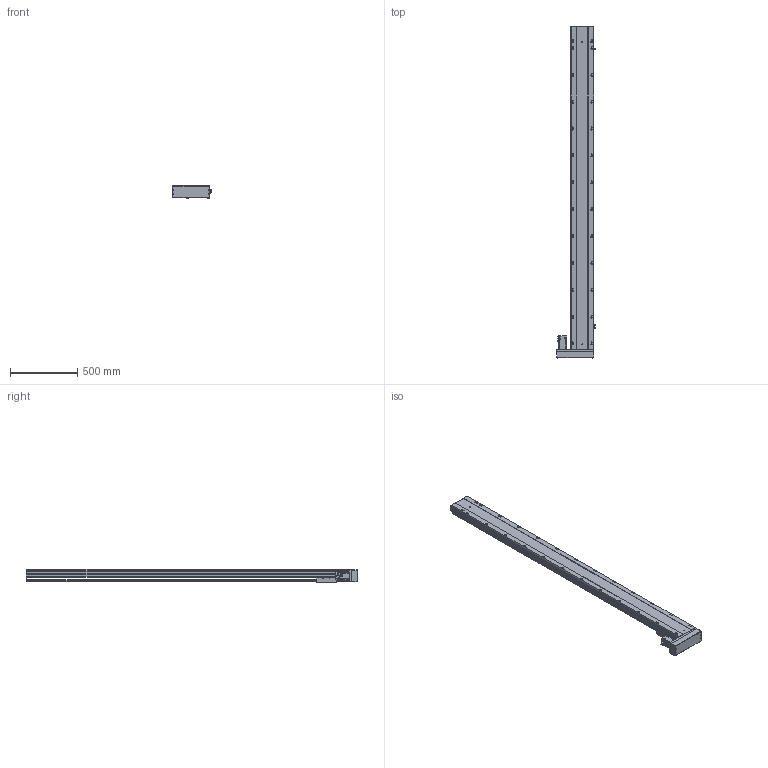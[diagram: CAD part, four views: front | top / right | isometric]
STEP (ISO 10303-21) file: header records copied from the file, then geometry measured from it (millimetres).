
FILE_DESCRIPTION (( 'STEP AP203' ), '1' );
FILE_NAME ('41.STEP', '2021-01-06T00:13:27', ( '' ), ( '' ), 'SwSTEP 2.0', 'SolidWorks 2016', '' );
FILE_SCHEMA (( 'CONFIG_CONTROL_DESIGN' ));
Length unit declared in the file: millimetre
Products named in the file (7): BTH17M-BL-HZ; BTH17M-BL-菁釱; BTH17M-BL-04; BTH17M-BL-01; BTH17M-BL-02_100; 41; BTH17M-BL-T40
Assembly tree (8 placements, depth 2):
  41
    BTH17M-BL-菁釱
    BTH17M-BL-01
    BTH17M-BL-02_100
    BTH17M-BL-04  x3
    BTH17M-BL-HZ
    BTH17M-BL-T40
Bounding box: 289.2 x 2471.2 x 97 mm (x, y, z)
Volume: 16328194.1 mm3; surface area: 2726238.7 mm2
Topology: 17 solids, 17 shells, 1452 faces, 3881 edges, 2471 vertices
Faces by surface type: plane 778, cylinder 554, cone 84, bspline 28, sphere 8
Entity records: 39887 total; most frequent: CARTESIAN_POINT 8633, DIRECTION 6398, ORIENTED_EDGE 6310, EDGE_CURVE 3155, AXIS2_PLACEMENT_3D 2236, VERTEX_POINT 2047, VECTOR 1926, LINE 1926
